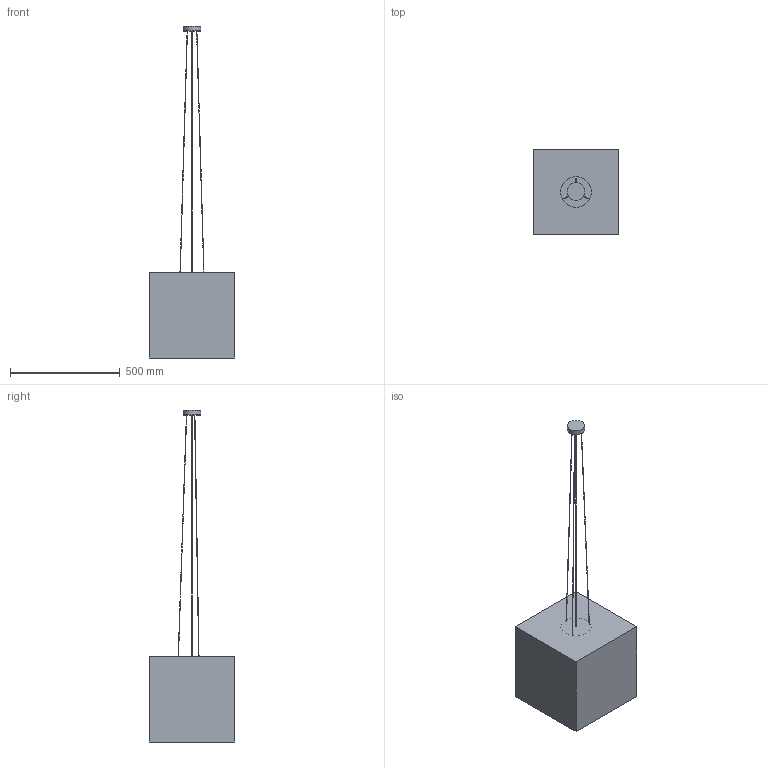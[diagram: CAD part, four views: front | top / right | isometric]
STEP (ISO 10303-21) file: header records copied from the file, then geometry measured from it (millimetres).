
FILE_DESCRIPTION(/* description */ (''),/* implementation_level */ '2;1');
FILE_NAME(/* name */ 'C:/Users/LukasGröber/GMS Cloud/Groeber Mannheim Lichtwerke - Dokumente/Marketing/Produkte/3D Daten/Würfel Eifel im Herbst Pendel Innen/Würfel Eifel im Herbst Pendel Innen 39.step',/* time_stamp */ '2022-07-11T09:36:17+02:00',/* author */ (''),/* organization */ (''),/* preprocessor_version */ 'ST-DEVELOPER v19',/* originating_system */ 'Autodesk Translation Framework v11.7.0.108',/* authorisation */ '');
FILE_SCHEMA (('AUTOMOTIVE_DESIGN { 1 0 10303 214 3 1 1 }'));
Length unit declared in the file: millimetre
Products named in the file (5): Würfel Eifel im Herbst Pendel Innen 39; Pendel Innen Aufhängung Kugeln 30-60; Pendel Innen LED Mönskappe (Modell); Baldachin klein Modell; Würfel Eifel im Herbst 39 v1
Assembly tree (4 placements, depth 3):
  Würfel Eifel im Herbst Pendel Innen 39
    Pendel Innen Aufhängung Kugeln 30-60
      Pendel Innen LED Mönskappe (Modell)
      Baldachin klein Modell
    Würfel Eifel im Herbst 39 v1
Bounding box: 390 x 390 x 1511.94 mm (x, y, z)
Volume: 59561446.6 mm3; surface area: 992318.1 mm2
Topology: 7 solids, 7 shells, 56 faces, 88 edges, 59 vertices
Faces by surface type: plane 32, cylinder 17, bspline 6, torus 1
Full cylindrical faces by diameter (mm): 1.5 x6, 3 x3, 5 x6, 80 x1, 140 x1
Entity records: 2185 total; most frequent: CARTESIAN_POINT 1018, DIRECTION 223, ORIENTED_EDGE 176, AXIS2_PLACEMENT_3D 97, EDGE_CURVE 88, EDGE_LOOP 69, VERTEX_POINT 59, FACE_OUTER_BOUND 56
